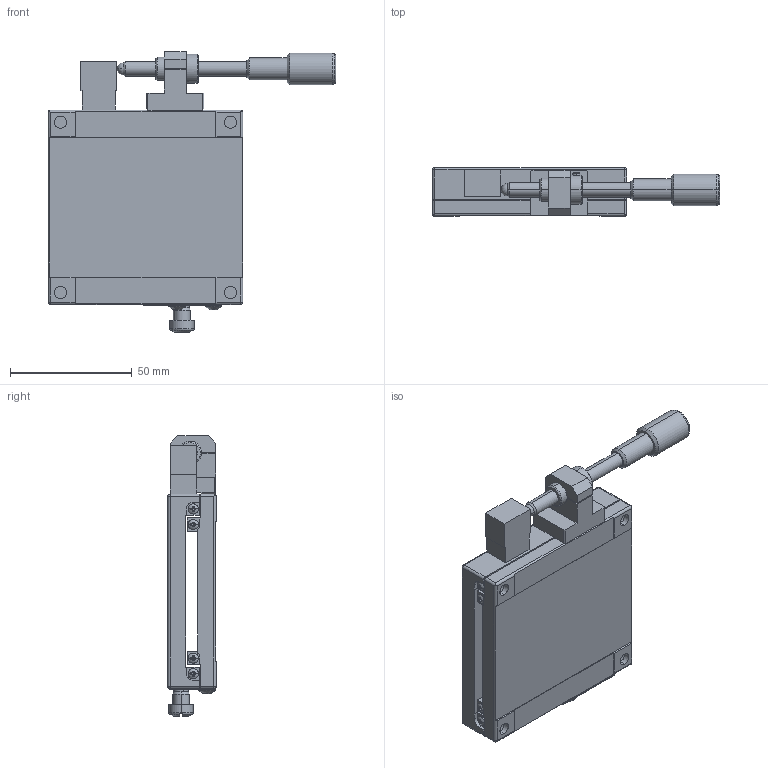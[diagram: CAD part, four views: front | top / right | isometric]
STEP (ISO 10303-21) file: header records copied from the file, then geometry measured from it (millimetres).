
FILE_DESCRIPTION (( 'STEP AP203' ), '1' );
FILE_NAME ('MX80-SS-28(«¬¿ý).STEP', '2015-06-23T08:16:58', ( '' ), ( '' ), 'SwSTEP 2.0', 'SolidWorks 2015', '' );
FILE_SCHEMA (( 'CONFIG_CONTROL_DESIGN' ));
Length unit declared in the file: millimetre
Products named in the file (3): Group1^MX80-SS-28(模糊化); MX80-SS-28(型錄); Group2^MX80-SS-28(模糊化)
Assembly tree (2 placements, depth 2):
  MX80-SS-28(型錄)
    Group1^MX80-SS-28(模糊化)
    Group2^MX80-SS-28(模糊化)
Bounding box: 118.25 x 20 x 115.4 mm (x, y, z)
Volume: 118038.1 mm3; surface area: 42328.5 mm2
Topology: 3 solids, 3 shells, 1131 faces, 3021 edges, 1953 vertices
Faces by surface type: plane 670, cylinder 180, bspline 169, cone 80, sphere 28, torus 4
Entity records: 43935 total; most frequent: CARTESIAN_POINT 16257, ORIENTED_EDGE 5986, DIRECTION 5200, EDGE_CURVE 2993, VERTEX_POINT 1953, VECTOR 1836, LINE 1836, AXIS2_PLACEMENT_3D 1682
